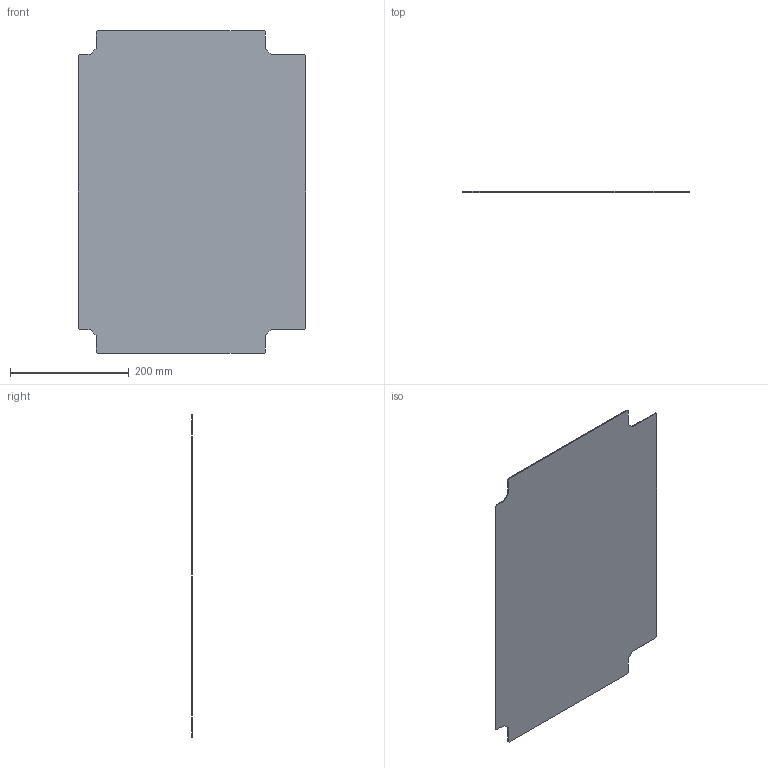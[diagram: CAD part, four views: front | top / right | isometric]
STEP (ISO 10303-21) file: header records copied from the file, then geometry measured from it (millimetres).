
FILE_DESCRIPTION(('CAx-IF Rec.Pracs.---Model Styling and Organization---1.2---2011-12-15','CAx-IF Rec.Pracs.---Geometric and Assembly Validation Properties---4.1---2014-06-16','CAx-IF Rec.Pracs.---PMI Polyline Presentation---2.0---2013-05-24'),'2;1');
FILE_NAME('R5SBC46.stp','2021-05-06T02:30:28+03:00',(''),(''),'STEP Interface 4.4 by CT CoreTechnologie','3D_Evolution4.4 by CT CoreTechnologie','');
FILE_SCHEMA(('AUTOMOTIVE_DESIGN { 1 0 10303 214 1 1 1 1 }'));
Length unit declared in the file: millimetre
Products named in the file (2): R5SBC46; RB.0504.00.00.0_-04
Assembly tree (1 placements, depth 2):
  R5SBC46
    RB.0504.00.00.0_-04
Bounding box: 383 x 1.5 x 543 mm (x, y, z)
Surface area: 403354.8 mm2 (no closed solid volume)
Topology: 0 solids, 1 shells, 26 faces, 72 edges, 48 vertices
Faces by surface type: plane 26
Entity records: 889 total; most frequent: CARTESIAN_POINT 148, ORIENTED_EDGE 144, DIRECTION 128, VECTOR 72, LINE 72, EDGE_CURVE 72, VERTEX_POINT 48, AXIS2_PLACEMENT_3D 28
